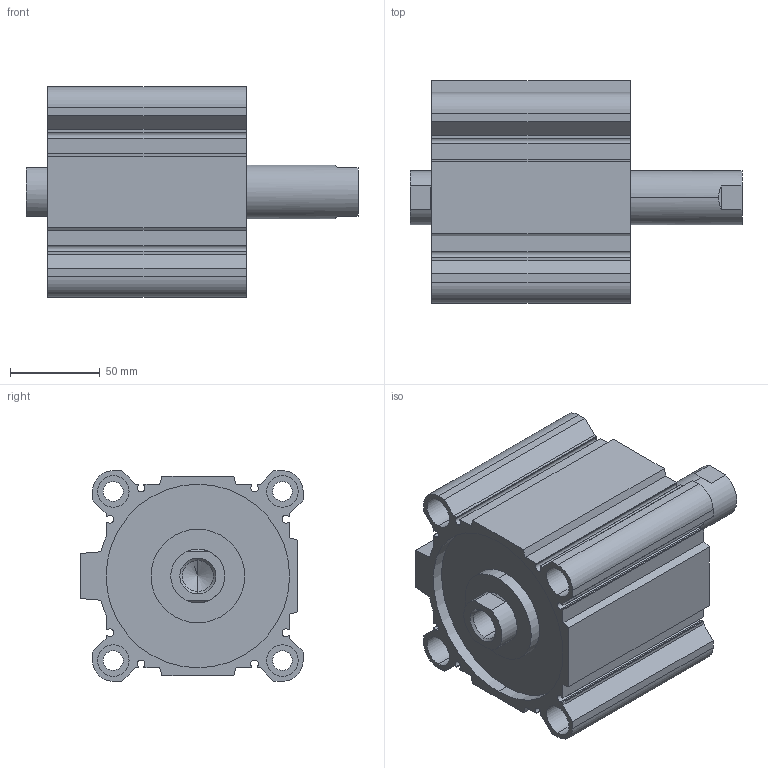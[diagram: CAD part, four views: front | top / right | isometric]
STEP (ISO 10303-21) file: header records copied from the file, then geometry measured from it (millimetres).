
FILE_DESCRIPTION (( 'STEP AP214' ), '1' );
FILE_NAME ('CCMB100-50F-P.STEP', '2020-08-05T11:55:25', ( '' ), ( '' ), 'SwSTEP 2.0', 'SolidWorks 2019', '' );
FILE_SCHEMA (( 'AUTOMOTIVE_DESIGN' ));
Length unit declared in the file: millimetre
Products named in the file (1): CCMB100-50F-P
Bounding box: 184.5 x 123.5 x 117 mm (x, y, z)
Volume: 877567.8 mm3; surface area: 200383 mm2
Topology: 2 solids, 2 shells, 178 faces, 456 edges, 298 vertices
Faces by surface type: plane 90, cylinder 76, cone 12
Entity records: 7417 total; most frequent: DIRECTION 962, CARTESIAN_POINT 953, ORIENTED_EDGE 904, EDGE_CURVE 452, AXIS2_PLACEMENT_3D 339, VERTEX_POINT 298, VECTOR 284, LINE 284
